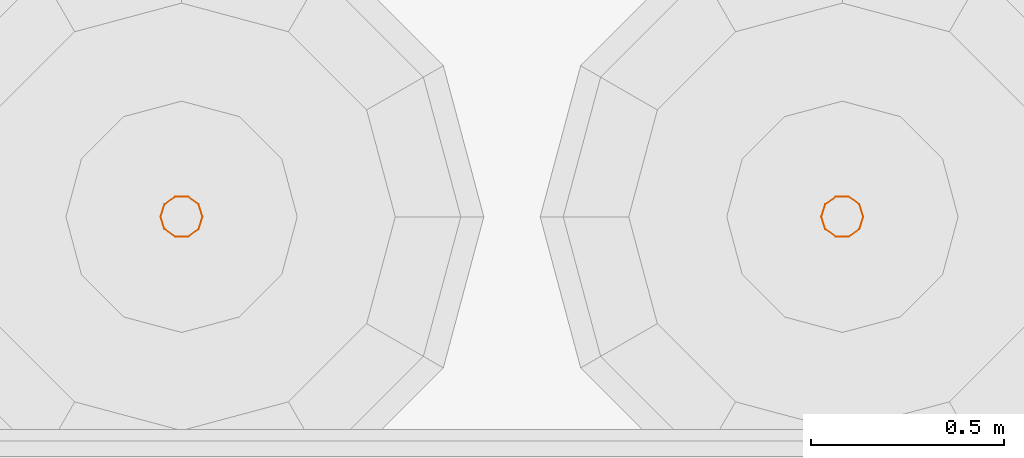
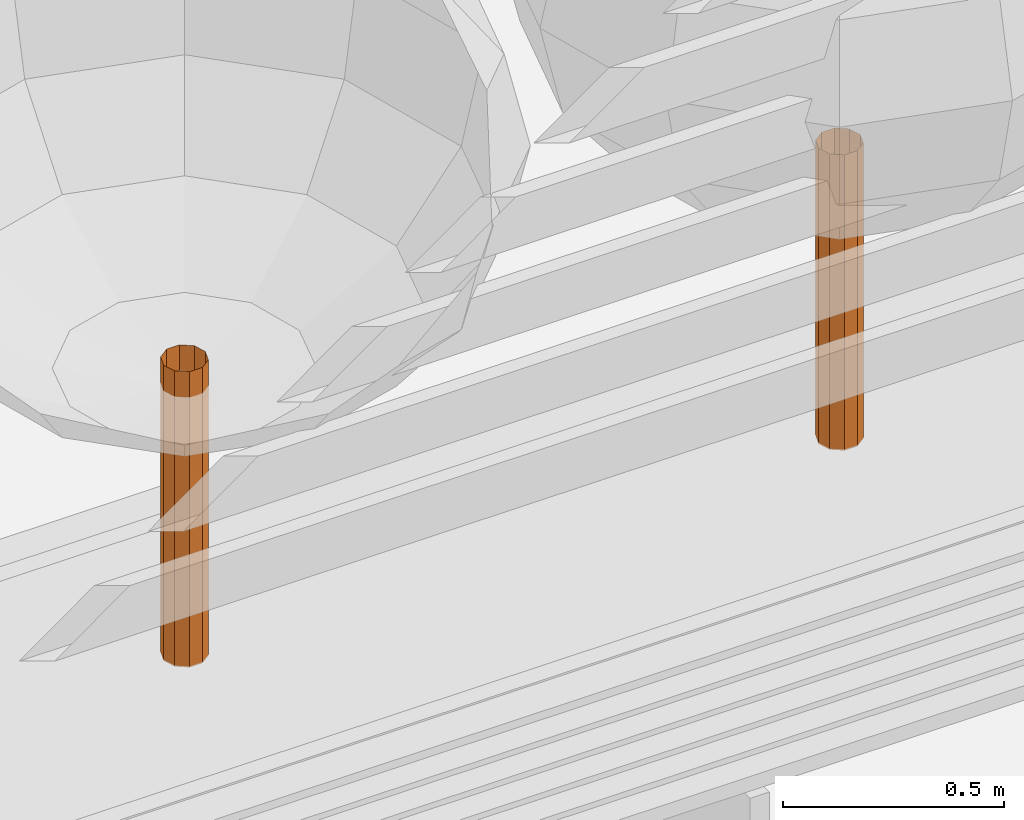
# One storey, part 166 of 166: 2 proxies.
"""IFC2X3 building model written with IfcOpenShell, lengths in metres."""

from ifc_helpers import new_model, si_unit, origin, origin_with_axes, place, context, subcontext, project, spatial, faceted_brep, element, save


model = new_model("IFC2X3")

# Units and contexts
model_context = context("Model", 3, precision=1e-05, world=origin_with_axes())
body_context = subcontext(model_context, "Body", "Model", "MODEL_VIEW")
ifc_project = project(units=[si_unit("LENGTHUNIT", "METRE"), si_unit("AREAUNIT", "SQUARE_METRE"), si_unit("VOLUMEUNIT", "CUBIC_METRE"), si_unit("PLANEANGLEUNIT", "RADIAN")], contexts=[model_context])

# Site, building, storey
site_placement = place(None, origin_with_axes())
site = spatial("IfcSite", under=ifc_project, at=site_placement, Name="Predio Los Mangos - Morales, San Martín", CompositionType="ELEMENT")
building_placement = place(site_placement, origin())
building = spatial("IfcBuilding", under=site, at=building_placement, Name="Hogar de Refugio Temporal", CompositionType="ELEMENT")
storey_placement = place(building_placement, origin())
storey = spatial("IfcBuildingStorey", under=building, at=storey_placement, Name="NIVEL 1 (NPT +0.00)", CompositionType="ELEMENT", Elevation=0.0)

# Proxies
proxy_1_placement = place(storey_placement, origin())
element("IfcBuildingElementProxy", 1, at=proxy_1_placement, inside=storey, Name="arbol_tronco", ObjectType="Árbol", context=body_context, shape_type="Brep", body=[
    faceted_brep([(41.2594, 110.25, 0.45), (41.249, 110.282, 0.45), (41.249, 110.282, 1.266), (41.2218, 110.3017, 0.45), (41.2218, 110.3017, 1.266), (41.1882, 110.3017, 0.45), (41.1882, 110.3017, 1.266), (41.161, 110.282, 0.45), (41.161, 110.282, 1.266), (41.1506, 110.25, 0.45), (41.1506, 110.25, 1.266), (41.161, 110.218, 0.45), (41.161, 110.218, 1.266), (41.1882, 110.1983, 0.45), (41.1882, 110.1983, 1.266), (41.2218, 110.1983, 0.45), (41.2218, 110.1983, 1.266), (41.249, 110.218, 0.45), (41.249, 110.218, 1.266), (41.2594, 110.25, 1.266)], [[[0, 1, 2]], [[1, 3, 4]], [[3, 5, 6]], [[5, 7, 8]], [[7, 9, 10]], [[9, 11, 12]], [[11, 13, 14]], [[13, 15, 16]], [[15, 17, 18]], [[17, 0, 19]], [[0, 2, 19]], [[1, 4, 2]], [[3, 6, 4]], [[5, 8, 6]], [[7, 10, 8]], [[9, 12, 10]], [[11, 14, 12]], [[13, 16, 14]], [[15, 18, 16]], [[17, 19, 18]]]),
])
proxy_2_placement = place(storey_placement, origin())
element("IfcBuildingElementProxy", 2, at=proxy_2_placement, inside=storey, Name="arbol_tronco", ObjectType="Árbol", context=body_context, shape_type="Brep", body=[
    faceted_brep([(39.5494, 110.25, 0.45), (39.539, 110.282, 0.45), (39.539, 110.282, 1.266), (39.5118, 110.3017, 0.45), (39.5118, 110.3017, 1.266), (39.4782, 110.3017, 0.45), (39.4782, 110.3017, 1.266), (39.451, 110.282, 0.45), (39.451, 110.282, 1.266), (39.4406, 110.25, 0.45), (39.4406, 110.25, 1.266), (39.451, 110.218, 0.45), (39.451, 110.218, 1.266), (39.4782, 110.1983, 0.45), (39.4782, 110.1983, 1.266), (39.5118, 110.1983, 0.45), (39.5118, 110.1983, 1.266), (39.539, 110.218, 0.45), (39.539, 110.218, 1.266), (39.5494, 110.25, 1.266)], [[[0, 1, 2]], [[1, 3, 4]], [[3, 5, 6]], [[5, 7, 8]], [[7, 9, 10]], [[9, 11, 12]], [[11, 13, 14]], [[13, 15, 16]], [[15, 17, 18]], [[17, 0, 19]], [[0, 2, 19]], [[1, 4, 2]], [[3, 6, 4]], [[5, 8, 6]], [[7, 10, 8]], [[9, 12, 10]], [[11, 14, 12]], [[13, 16, 14]], [[15, 18, 16]], [[17, 19, 18]]]),
])

save(model, "model.ifc")
